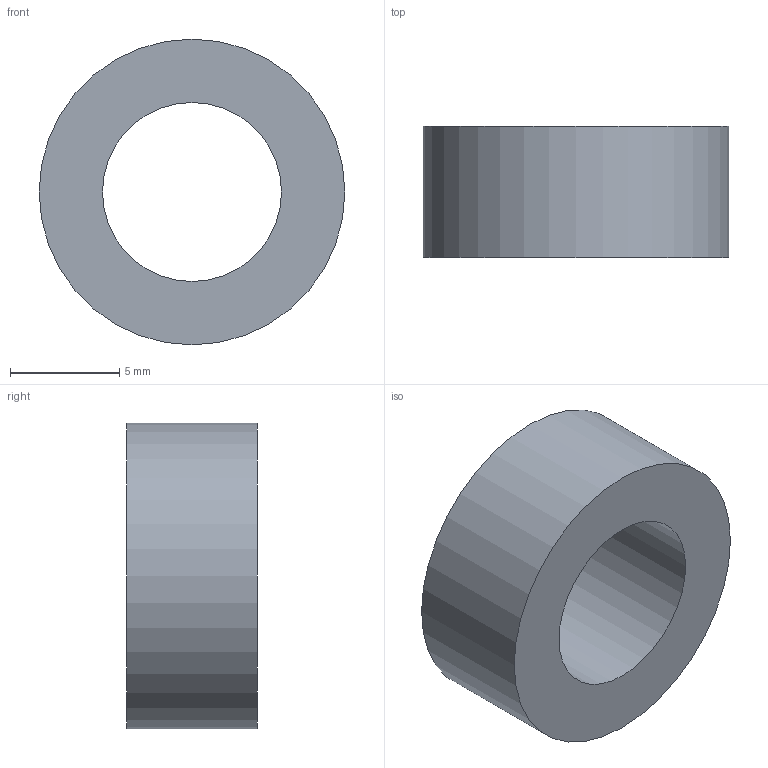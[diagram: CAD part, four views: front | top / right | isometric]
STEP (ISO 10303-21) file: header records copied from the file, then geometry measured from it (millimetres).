
FILE_DESCRIPTION(('Open CASCADE Model'),'2;1');
FILE_NAME('Open CASCADE Shape Model','2026-10-04T01:02:30',('Author'),( 'Open CASCADE'),'Open CASCADE STEP processor 8.0','Open CASCADE 8.0' ,'Unknown');
FILE_SCHEMA(('AUTOMOTIVE_DESIGN { 1 0 10303 214 1 1 1 1 }'));
Length unit declared in the file: millimetre
Products named in the file (1): Open CASCADE STEP translator 8.0 227
Bounding box: 14 x 6 x 14 mm (x, y, z)
Volume: 606.8 mm3; surface area: 620.7 mm2
Topology: 1 solids, 1 shells, 4 faces, 6 edges, 4 vertices
Faces by surface type: cylinder 2, plane 2
Full cylindrical faces by diameter (mm): 8.2 x1, 14 x1
Entity records: 186 total; most frequent: DIRECTION 32, CARTESIAN_POINT 27, ORIENTED_EDGE 12, PCURVE 12, DEFINITIONAL_REPRESENTATION 12, LINE 10, VECTOR 10, AXIS2_PLACEMENT_3D 9
